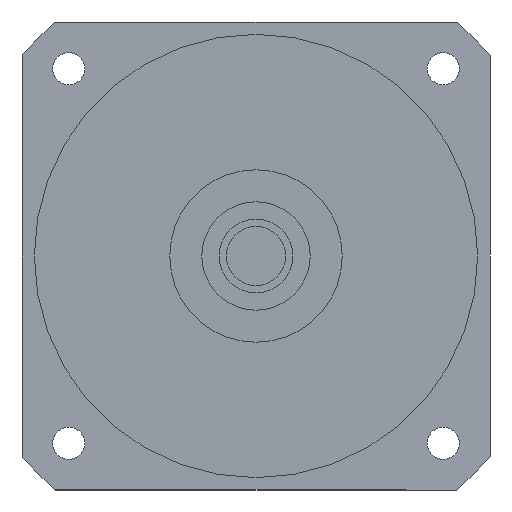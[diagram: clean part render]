
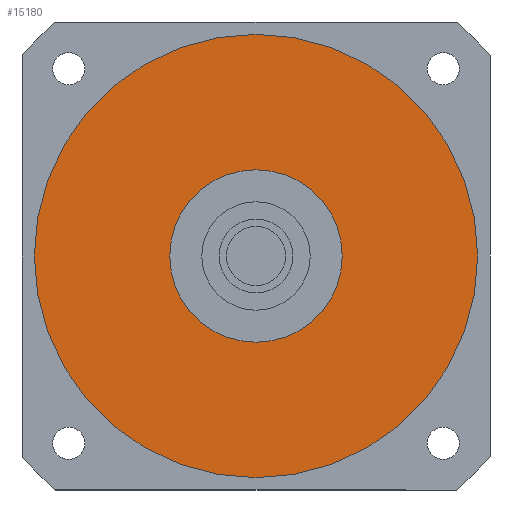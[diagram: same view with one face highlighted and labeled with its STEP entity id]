
A CAD part, left-side view. The second image highlights one B-rep face of the part: STEP entity #15180.
In plain terms, the highlighted planar face has unit normal (-1, 0, 0) as drawn and (0, 0, -1) by its records, which use the part's own axes.
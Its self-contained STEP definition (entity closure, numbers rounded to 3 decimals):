
#14600=CARTESIAN_POINT('',(90.,0.,-55.2));
#14610=VERTEX_POINT('',#14600);
#14700=CARTESIAN_POINT('',(-90.,0.,-55.2));
#14710=VERTEX_POINT('',#14700);
#14740=CARTESIAN_POINT('',(0.,0.,
-55.2));
#14750=DIRECTION('',(0.,0.,1.));
#14760=DIRECTION('',(0.,1.,0.));
#14770=AXIS2_PLACEMENT_3D('',#14740,#14750,#14760);
#14780=CIRCLE('',#14770,90.);
#14790=CARTESIAN_POINT('',(0.,90.,-55.2));
#14800=VERTEX_POINT('',#14790);
#14810=EDGE_CURVE('',#14800,#14710,#14780,.T.);
#14830=EDGE_CURVE('',#14610,#14800,#14780,.T.);
#14880=CARTESIAN_POINT('',(0.,0.,
-55.2));
#14890=DIRECTION('',(0.,0.,1.));
#14900=DIRECTION('',(-1.,0.,0.));
#14910=AXIS2_PLACEMENT_3D('',#14880,#14890,#14900);
#14920=PLANE('',#14910);
#14930=CARTESIAN_POINT('',(0.,0.,
-55.2));
#14940=DIRECTION('',(0.,0.,1.));
#14950=DIRECTION('',(0.,1.,0.));
#14960=AXIS2_PLACEMENT_3D('',#14930,#14940,#14950);
#14970=CIRCLE('',#14960,35.);
#14980=CARTESIAN_POINT('',(-35.,0.,-55.2));
#14990=VERTEX_POINT('',#14980);
#15000=CARTESIAN_POINT('',(35.,0.,-55.2));
#15010=VERTEX_POINT('',#15000);
#15020=EDGE_CURVE('',#14990,#15010,#14970,.T.);
#15030=ORIENTED_EDGE('',*,*,#15020,.T.);
#15040=CARTESIAN_POINT('',(0.,35.,-55.2));
#15050=VERTEX_POINT('',#15040);
#15060=EDGE_CURVE('',#15050,#14990,#14970,.T.);
#15070=ORIENTED_EDGE('',*,*,#15060,.T.);
#15080=EDGE_CURVE('',#15010,#15050,#14970,.T.);
#15090=ORIENTED_EDGE('',*,*,#15080,.T.);
#15100=EDGE_LOOP('',(#15090,#15070,#15030));
#15110=FACE_BOUND('',#15100,.T.);
#15120=ORIENTED_EDGE('',*,*,#14810,.F.);
#15130=EDGE_CURVE('',#14710,#14610,#14780,.T.);
#15140=ORIENTED_EDGE('',*,*,#15130,.F.);
#15150=ORIENTED_EDGE('',*,*,#14830,.F.);
#15160=EDGE_LOOP('',(#15150,#15140,#15120));
#15170=FACE_OUTER_BOUND('',#15160,.T.);
#15180=ADVANCED_FACE('',(#15110,#15170),#14920,.F.);
